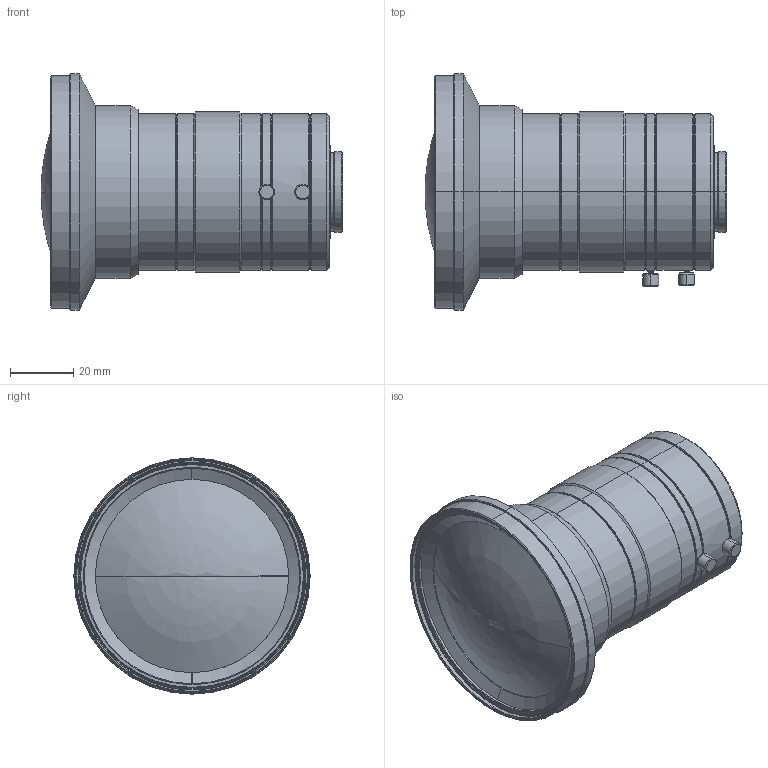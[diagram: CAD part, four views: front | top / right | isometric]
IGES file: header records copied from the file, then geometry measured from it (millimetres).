
Start section: SolidWorks IGES file using analytic representation for surfaces
Global section: file name: \\192.168.200.11\Development\3 製品\1 標準品\01 マクロレンズ\01 VS-LLD series\100 VS-LLD10\10.3D外観モデル\VS-LLD10.IGS; native system: SolidWorks 2015; preprocessor: SolidWorks 2015; author: miura_vst; date: 160108.131505; units: millimetre
Bounding box: 95.15 x 74.5 x 74.5 mm (x, y, z)
Surface area: 29540.2 mm2 (no closed solid volume)
Topology: 0 solids, 0 shells, 198 faces, 3972 edges, 3970 vertices
Faces by surface type: revolution 168, bspline 30
